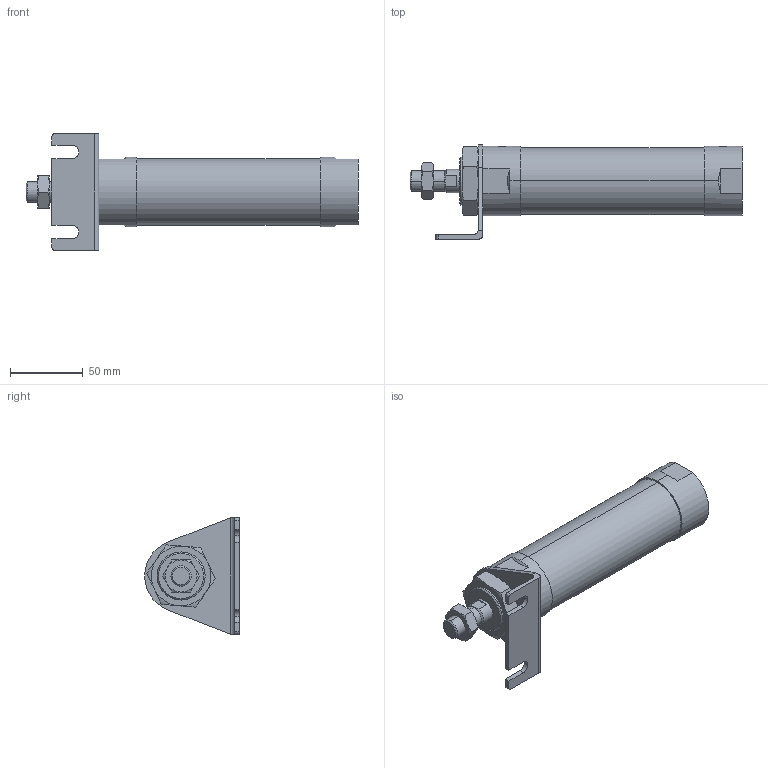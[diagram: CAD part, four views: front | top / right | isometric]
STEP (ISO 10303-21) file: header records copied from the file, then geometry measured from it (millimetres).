
FILE_DESCRIPTION (( 'STEP AP203' ), '1' );
FILE_NAME ('JGND2-40-75-L.STEP', '2016-08-04T03:06:48', ( '' ), ( '' ), 'SwSTEP 2.0', 'SolidWorks 2014', '' );
FILE_SCHEMA (( 'CONFIG_CONTROL_DESIGN' ));
Length unit declared in the file: millimetre
Products named in the file (5): JGND2-40-75-L; J#2-40-75(P); J#2-40-L
Assembly tree (4 placements, depth 2):
  JGND2-40-75-L
    J#2-40-75(P)
    (unnamed)
    (unnamed)
    J#2-40-L
Bounding box: 228 x 65 x 80 mm (x, y, z)
Volume: 344492.8 mm3; surface area: 50768.5 mm2
Topology: 4 solids, 4 shells, 116 faces, 273 edges, 167 vertices
Faces by surface type: plane 47, cylinder 32, torus 24, cone 13
Entity records: 4269 total; most frequent: CARTESIAN_POINT 1150, DIRECTION 548, ORIENTED_EDGE 538, EDGE_CURVE 269, AXIS2_PLACEMENT_3D 219, VERTEX_POINT 167, EDGE_LOOP 128, FACE_OUTER_BOUND 116
